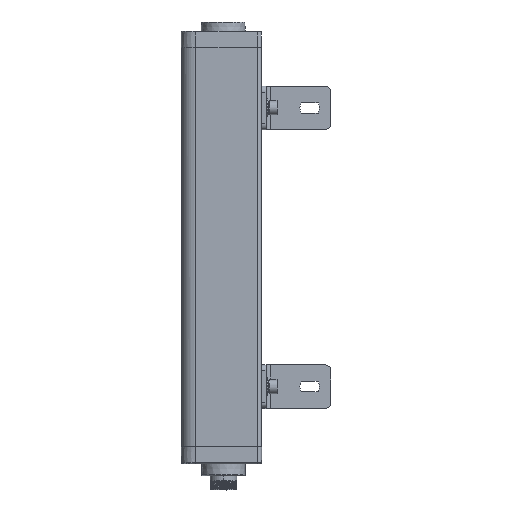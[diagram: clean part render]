
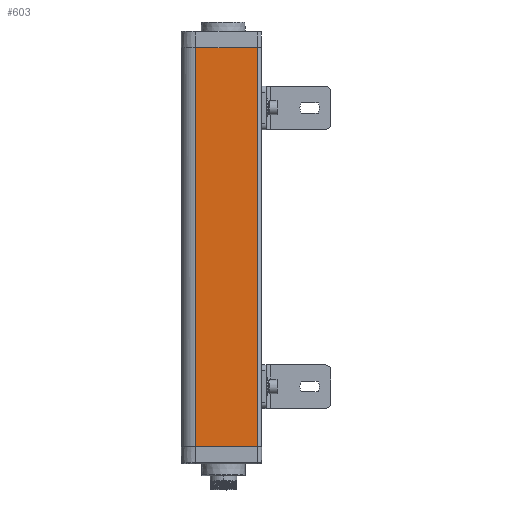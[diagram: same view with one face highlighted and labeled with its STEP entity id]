
A CAD part, left-side view. The second image highlights one B-rep face of the part: STEP entity #603.
In plain terms, the highlighted planar face has unit normal (-1, 0, 0).
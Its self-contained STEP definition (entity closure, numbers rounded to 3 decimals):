
#21=CARTESIAN_POINT('',(-17.5,18.206,0.));
#29=DIRECTION('',(0.,1.,0.));
#30=VECTOR('',#29,41.056);
#31=CARTESIAN_POINT('',(-17.5,-22.85,0.));
#32=LINE('',#31,#30);
#204=DIRECTION('',(0.,0.,1.));
#205=VECTOR('',#204,265.);
#206=CARTESIAN_POINT('',(-17.5,18.206,0.));
#207=LINE('',#206,#205);
#208=DIRECTION('',(0.,1.,0.));
#209=VECTOR('',#208,41.056);
#210=CARTESIAN_POINT('',(-17.5,-22.85,265.));
#211=LINE('',#210,#209);
#212=DIRECTION('',(0.,0.,-1.));
#213=VECTOR('',#212,265.);
#214=CARTESIAN_POINT('',(-17.5,-22.85,265.));
#215=LINE('',#214,#213);
#337=CARTESIAN_POINT('',(-17.5,-22.85,0.));
#339=VERTEX_POINT('',#337);
#350=VERTEX_POINT('',#21);
#399=CARTESIAN_POINT('',(-17.5,18.206,265.));
#400=VERTEX_POINT('',#399);
#405=CARTESIAN_POINT('',(-17.5,-22.85,265.));
#406=VERTEX_POINT('',#405);
#591=CARTESIAN_POINT('',(-17.5,18.206,1750.));
#592=DIRECTION('',(1.,0.,0.));
#593=DIRECTION('',(0.,0.,-1.));
#594=AXIS2_PLACEMENT_3D('',#591,#592,#593);
#595=PLANE('',#594);
#596=ORIENTED_EDGE('',*,*,#428,.T.);
#597=ORIENTED_EDGE('',*,*,#586,.T.);
#598=ORIENTED_EDGE('',*,*,#543,.F.);
#600=ORIENTED_EDGE('',*,*,#599,.T.);
#601=EDGE_LOOP('',(#596,#597,#598,#600));
#602=FACE_OUTER_BOUND('',#601,.F.);
#603=ADVANCED_FACE('',(#602),#595,.F.);
#428=EDGE_CURVE('',#339,#350,#32,.T.);
#543=EDGE_CURVE('',#406,#400,#211,.T.);
#586=EDGE_CURVE('',#350,#400,#207,.T.);
#599=EDGE_CURVE('',#406,#339,#215,.T.);
